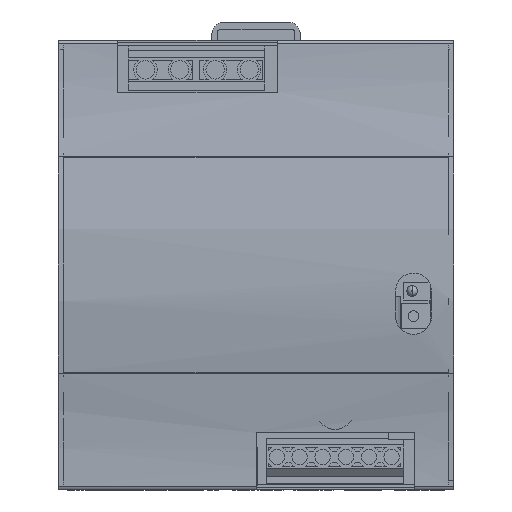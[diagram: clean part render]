
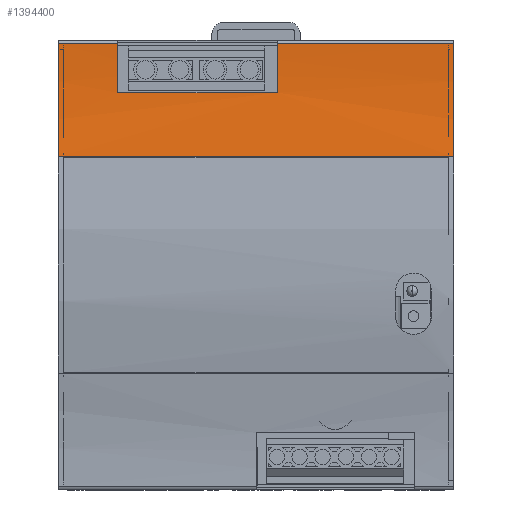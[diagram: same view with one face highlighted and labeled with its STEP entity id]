
A CAD part, left-side view. The second image highlights one B-rep face of the part: STEP entity #1394400.
In plain terms, the highlighted cylindrical face has radius 150.414 mm (diameter 300.828 mm), a partial arc.
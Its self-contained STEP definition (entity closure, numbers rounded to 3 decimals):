
#42480=CARTESIAN_POINT('',(-23.289,123.236,73.59
));
#42490=VERTEX_POINT('',#42480);
#42520=CARTESIAN_POINT('',(-173.696,123.236,72.111
));
#42530=DIRECTION('',(0.,-1.,0.));
#42540=DIRECTION('',(-1.,0.,0.));
#42550=AXIS2_PLACEMENT_3D('',#42520,#42530,#42540);
#42560=CIRCLE('',#42550,150.414);
#42570=CARTESIAN_POINT('',(-26.304,123.236,42.11
));
#42580=VERTEX_POINT('',#42570);
#42590=EDGE_CURVE('',#42580,#42490,#42560,.T.);
#58610=CARTESIAN_POINT('',(-26.304,13.236,
42.11));
#58620=VERTEX_POINT('',#58610);
#58650=CARTESIAN_POINT('',(-173.696,13.236,
72.111));
#58660=DIRECTION('',(0.,-1.,0.));
#58670=DIRECTION('',(-1.,0.,0.));
#58680=AXIS2_PLACEMENT_3D('',#58650,#58660,#58670);
#58690=CIRCLE('',#58680,150.414);
#58700=CARTESIAN_POINT('',(-23.289,13.236,
73.59));
#58710=VERTEX_POINT('',#58700);
#58720=EDGE_CURVE('',#58620,#58710,#58690,.T.);
#1393590=CARTESIAN_POINT('',(-23.289,19.986,
73.59));
#1393600=DIRECTION('',(0.,1.,0.));
#1393610=VECTOR('',#1393600,1.);
#1393620=LINE('',#1393590,#1393610);
#1393630=CARTESIAN_POINT('',(-23.289,106.786,
73.59));
#1393640=VERTEX_POINT('',#1393630);
#1393650=EDGE_CURVE('',#1393640,#42490,#1393620,.T.);
#1393810=CARTESIAN_POINT('',(-23.289,19.986,
73.59));
#1393820=DIRECTION('',(0.,1.,0.));
#1393830=VECTOR('',#1393820,1.);
#1393840=LINE('',#1393810,#1393830);
#1393850=CARTESIAN_POINT('',(-23.289,62.286,
73.59));
#1393860=VERTEX_POINT('',#1393850);
#1393870=EDGE_CURVE('',#58710,#1393860,#1393840,.T.);
#1393990=CARTESIAN_POINT('',(-173.696,19.986,
72.111));
#1394000=DIRECTION('',(0.,-1.,0.));
#1394010=DIRECTION('',(-1.,0.,0.))
;
#1394020=AXIS2_PLACEMENT_3D('',#1393990,#1394000,#1394010);
#1394030=CYLINDRICAL_SURFACE('',#1394020,150.414);
#1394040=CARTESIAN_POINT('',(-26.304,19.986,
42.11));
#1394050=DIRECTION('',(0.,1.,0.));
#1394060=VECTOR('',#1394050,1.);
#1394070=LINE('',#1394040,#1394060);
#1394080=EDGE_CURVE('',#58620,#42580,#1394070,.T.);
#1394090=ORIENTED_EDGE('',*,*,#1394080,.F.);
#1394100=ORIENTED_EDGE('',*,*,#42590,.F.);
#1394110=ORIENTED_EDGE('',*,*,#1393650,.T.);
#1394120=CARTESIAN_POINT('',(-173.696,106.786,
72.111));
#1394130=DIRECTION('',(0.,-1.,0.));
#1394140=DIRECTION('',(-1.,0.,0.))
;
#1394150=AXIS2_PLACEMENT_3D('',#1394120,#1394130,#1394140);
#1394160=CIRCLE('',#1394150,150.414);
#1394170=CARTESIAN_POINT('',(-23.774,106.786,
59.95));
#1394180=VERTEX_POINT('',#1394170);
#1394190=EDGE_CURVE('',#1394180,#1393640,#1394160,.T.);
#1394200=ORIENTED_EDGE('',*,*,#1394190,.T.);
#1394210=CARTESIAN_POINT('',(-23.774,19.986,
59.95));
#1394220=DIRECTION('',(0.,-1.,0.));
#1394230=VECTOR('',#1394220,1.);
#1394240=LINE('',#1394210,#1394230);
#1394250=CARTESIAN_POINT('',(-23.774,62.286,
59.95));
#1394260=VERTEX_POINT('',#1394250);
#1394270=EDGE_CURVE('',#1394180,#1394260,#1394240,.T.);
#1394280=ORIENTED_EDGE('',*,*,#1394270,.F.);
#1394290=CARTESIAN_POINT('',(-173.696,62.286,
72.111));
#1394300=DIRECTION('',(0.,-1.,0.));
#1394310=DIRECTION('',(-1.,0.,0.))
;
#1394320=AXIS2_PLACEMENT_3D('',#1394290,#1394300,#1394310);
#1394330=CIRCLE('',#1394320,150.414);
#1394340=EDGE_CURVE('',#1394260,#1393860,#1394330,.T.);
#1394350=ORIENTED_EDGE('',*,*,#1394340,.F.);
#1394360=ORIENTED_EDGE('',*,*,#1393870,.T.);
#1394370=ORIENTED_EDGE('',*,*,#58720,.T.);
#1394380=EDGE_LOOP('',(#1394370,#1394360,#1394350,#1394280,#1394200,
#1394110,#1394100,#1394090));
#1394390=FACE_OUTER_BOUND('',#1394380,.T.);
#1394400=ADVANCED_FACE('',(#1394390),#1394030,.F.);
